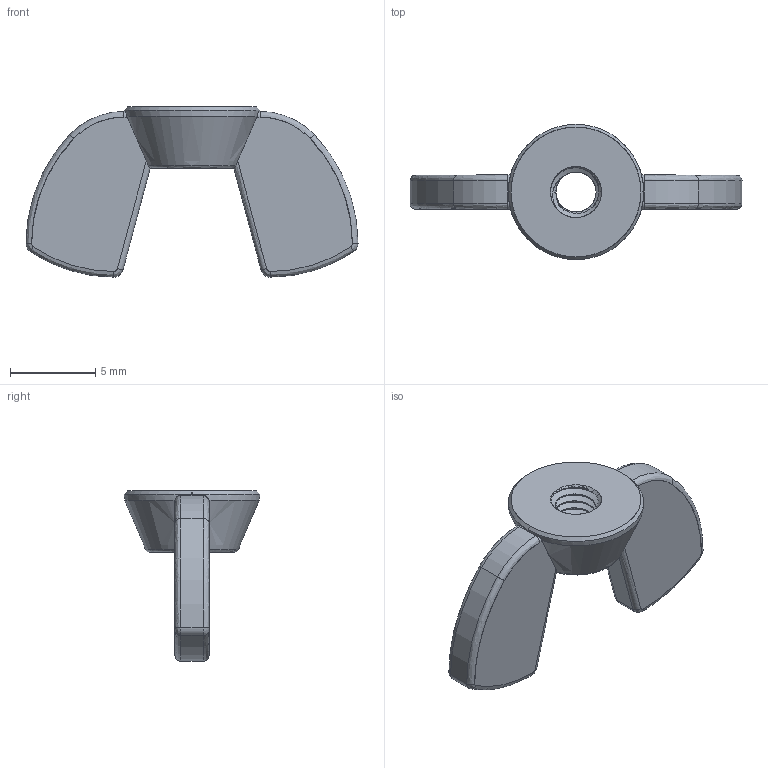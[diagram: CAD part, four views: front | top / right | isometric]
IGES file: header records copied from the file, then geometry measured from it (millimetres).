
Start section: SolidWorks IGES file using analytic representation for surfaces
Global section: file name: C:\Users\Home\Desktop\Wing Nuts Metric\WING NUT M3 x 05mm Thread.IGS; native system: SolidWorks 2014; preprocessor: SolidWorks 2014; author: Home; date: 170501.205642; units: millimetre
Bounding box: 19.5 x 7.96 x 10 mm (x, y, z)
Surface area: 456.3 mm2 (no closed solid volume)
Topology: 0 solids, 0 shells, 97 faces, 1289 edges, 1287 vertices
Faces by surface type: revolution 59, bspline 38
